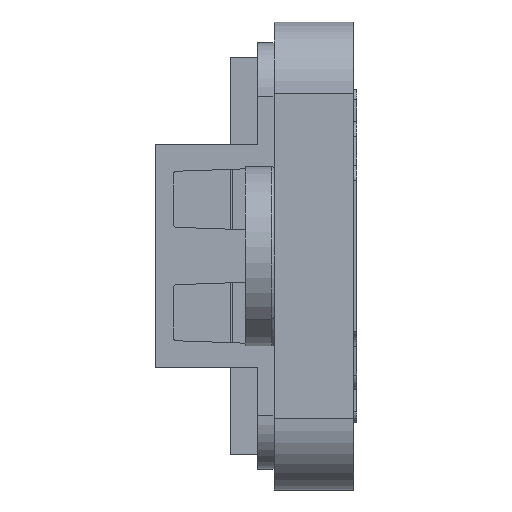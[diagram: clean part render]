
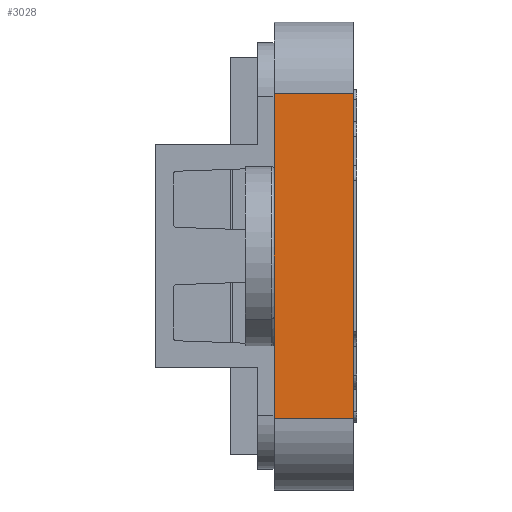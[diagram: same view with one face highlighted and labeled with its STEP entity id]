
A CAD part, left-side view. The second image highlights one B-rep face of the part: STEP entity #3028.
In plain terms, the highlighted planar face has unit normal (-1, 0, 0).
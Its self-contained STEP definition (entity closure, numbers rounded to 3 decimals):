
#373 = DIRECTION ( 'NONE',  ( 0., 1., 0. ) ) ;
#536 = ORIENTED_EDGE ( 'NONE', *, *, #3863, .F. ) ;
#686 = CARTESIAN_POINT ( 'NONE',  ( -47.243, 4.4, -9. ) ) ;
#767 = DIRECTION ( 'NONE',  ( 0., 0., 1. ) ) ;
#795 = CARTESIAN_POINT ( 'NONE',  ( -47.243, 0., -9. ) ) ;
#818 = EDGE_CURVE ( 'NONE', #3734, #3413, #1160, .T. ) ;
#840 = CARTESIAN_POINT ( 'NONE',  ( -47.243, 0., 9. ) ) ;
#897 = ORIENTED_EDGE ( 'NONE', *, *, #2757, .T. ) ;
#905 = ORIENTED_EDGE ( 'NONE', *, *, #1874, .T. ) ;
#1087 = EDGE_LOOP ( 'NONE', ( #3469, #905, #897, #536 ) ) ;
#1160 = LINE ( 'NONE', #1574, #1166 ) ;
#1166 = VECTOR ( 'NONE', #2527, 1000. ) ;
#1574 = CARTESIAN_POINT ( 'NONE',  ( -47.243, -39.919, -9. ) ) ;
#1575 = LINE ( 'NONE', #1699, #1631 ) ;
#1631 = VECTOR ( 'NONE', #373, 1000. ) ;
#1699 = CARTESIAN_POINT ( 'NONE',  ( -47.243, -39.919, 9. ) ) ;
#1812 = CARTESIAN_POINT ( 'NONE',  ( -47.243, -39.919, -9. ) ) ;
#1874 = EDGE_CURVE ( 'NONE', #3734, #3827, #2938, .T. ) ;
#2105 = VERTEX_POINT ( 'NONE', #4699 ) ;
#2109 = CARTESIAN_POINT ( 'NONE',  ( -47.243, 4.4, -9. ) ) ;
#2148 = LINE ( 'NONE', #2109, #2230 ) ;
#2230 = VECTOR ( 'NONE', #2478, 1000. ) ;
#2422 = DIRECTION ( 'NONE',  ( 0., 1., 0. ) ) ;
#2478 = DIRECTION ( 'NONE',  ( 0., 0., 1. ) ) ;
#2527 = DIRECTION ( 'NONE',  ( 0., 1., 0. ) ) ;
#2757 = EDGE_CURVE ( 'NONE', #3827, #2105, #1575, .T. ) ;
#2858 = FACE_OUTER_BOUND ( 'NONE', #1087, .T. ) ;
#2938 = LINE ( 'NONE', #795, #2974 ) ;
#2974 = VECTOR ( 'NONE', #767, 1000. ) ;
#3028 = ADVANCED_FACE ( 'NONE', ( #2858 ), #3975, .T. ) ;
#3280 = AXIS2_PLACEMENT_3D ( 'NONE', #1812, #4068, #2422 ) ;
#3345 = CARTESIAN_POINT ( 'NONE',  ( -47.243, 0., -9. ) ) ;
#3413 = VERTEX_POINT ( 'NONE', #686 ) ;
#3469 = ORIENTED_EDGE ( 'NONE', *, *, #818, .F. ) ;
#3734 = VERTEX_POINT ( 'NONE', #3345 ) ;
#3827 = VERTEX_POINT ( 'NONE', #840 ) ;
#3863 = EDGE_CURVE ( 'NONE', #3413, #2105, #2148, .T. ) ;
#3975 = PLANE ( 'NONE',  #3280 ) ;
#4068 = DIRECTION ( 'NONE',  ( -1., 0., 0. ) ) ;
#4699 = CARTESIAN_POINT ( 'NONE',  ( -47.243, 4.4, 9. ) ) ;
